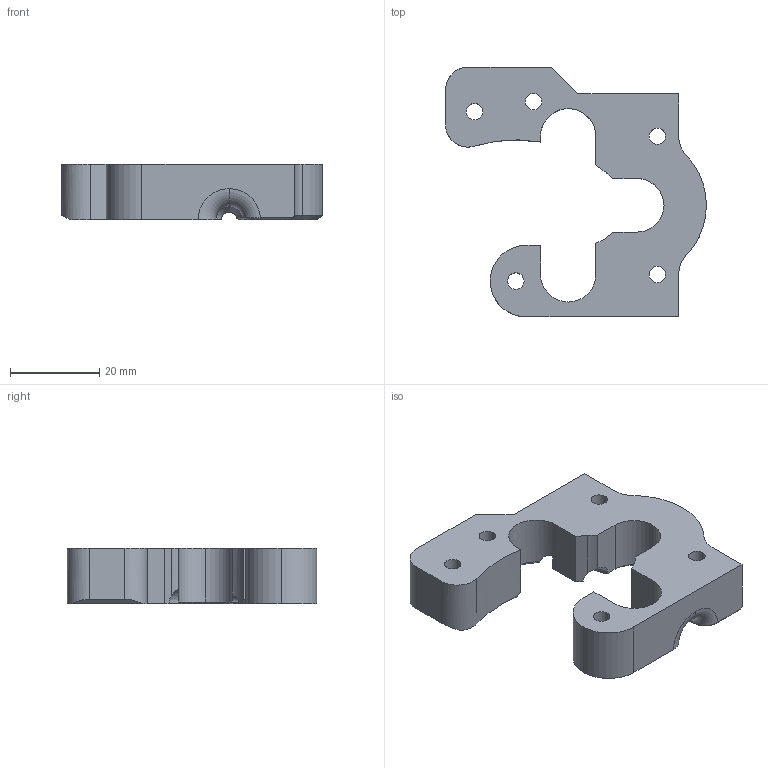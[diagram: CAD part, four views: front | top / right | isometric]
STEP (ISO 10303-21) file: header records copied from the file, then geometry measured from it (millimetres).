
FILE_DESCRIPTION (( 'STEP AP214' ), '1' );
FILE_NAME ('um2feeder_main_front.STEP', '2014-10-26T06:42:43', ( 'Frank' ), ( '' ), 'SwSTEP 2.0', 'SolidWorks 2013', '' );
FILE_SCHEMA (( 'AUTOMOTIVE_DESIGN' ));
Length unit declared in the file: millimetre
Products named in the file (1): um2feeder_main_front
Bounding box: 58.5 x 56 x 12.5 mm (x, y, z)
Volume: 17477.2 mm3; surface area: 7446.7 mm2
Topology: 1 solids, 1 shells, 100 faces, 272 edges, 174 vertices
Faces by surface type: plane 40, cylinder 36, cone 20, torus 2, bspline 2
Entity records: 3485 total; most frequent: CARTESIAN_POINT 892, ORIENTED_EDGE 544, DIRECTION 537, EDGE_CURVE 272, AXIS2_PLACEMENT_3D 195, VERTEX_POINT 174, LINE 147, VECTOR 147
